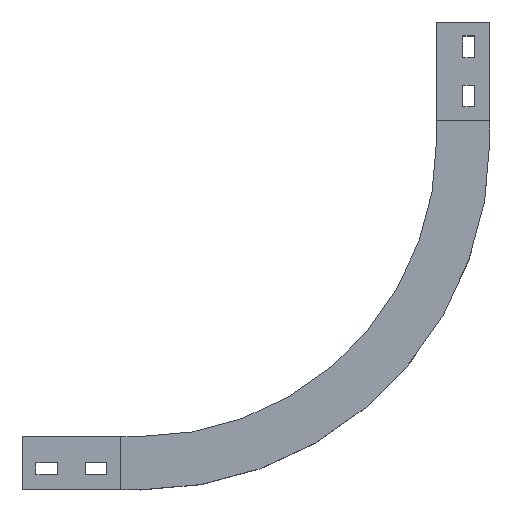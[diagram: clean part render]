
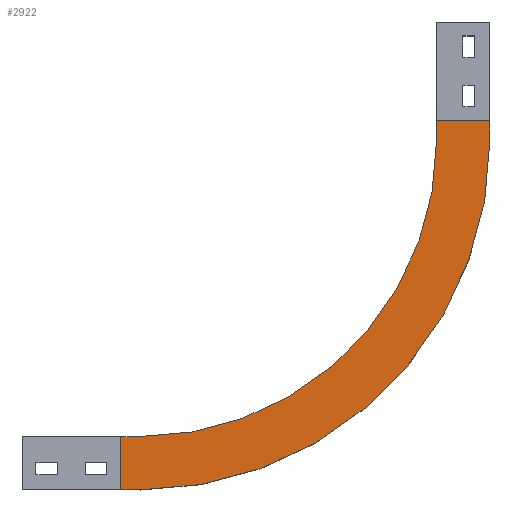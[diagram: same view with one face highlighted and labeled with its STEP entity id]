
A CAD part, top view. The second image highlights one B-rep face of the part: STEP entity #2922.
In plain terms, the highlighted planar face has unit normal (0, 0, 1).
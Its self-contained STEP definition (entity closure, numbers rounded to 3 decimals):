
#179=CIRCLE('',#3135,354.);
#180=CIRCLE('',#3136,300.);
#362=FACE_OUTER_BOUND('',#544,.T.);
#544=EDGE_LOOP('',(#2599,#2600,#2601,#2602,#2603,#2604,#2605,#2606));
#839=LINE('',#5588,#1155);
#843=LINE('',#5596,#1159);
#844=LINE('',#5600,#1160);
#845=LINE('',#5602,#1161);
#846=LINE('',#5604,#1162);
#847=LINE('',#5607,#1163);
#1155=VECTOR('',#3817,304.8);
#1159=VECTOR('',#3823,304.8);
#1160=VECTOR('',#3826,304.8);
#1161=VECTOR('',#3827,304.8);
#1162=VECTOR('',#3828,304.8);
#1163=VECTOR('',#3831,304.8);
#1435=VERTEX_POINT('',#5586);
#1436=VERTEX_POINT('',#5587);
#1439=VERTEX_POINT('',#5595);
#1440=VERTEX_POINT('',#5597);
#1441=VERTEX_POINT('',#5599);
#1442=VERTEX_POINT('',#5601);
#1443=VERTEX_POINT('',#5603);
#1444=VERTEX_POINT('',#5605);
#1827=EDGE_CURVE('',#1435,#1436,#839,.T.);
#1831=EDGE_CURVE('',#1435,#1439,#843,.T.);
#1832=EDGE_CURVE('',#1439,#1440,#179,.T.);
#1833=EDGE_CURVE('',#1440,#1441,#844,.T.);
#1834=EDGE_CURVE('',#1441,#1442,#845,.T.);
#1835=EDGE_CURVE('',#1442,#1443,#846,.T.);
#1836=EDGE_CURVE('',#1443,#1444,#180,.T.);
#1837=EDGE_CURVE('',#1444,#1436,#847,.T.);
#2599=ORIENTED_EDGE('',*,*,#1827,.F.);
#2600=ORIENTED_EDGE('',*,*,#1831,.T.);
#2601=ORIENTED_EDGE('',*,*,#1832,.T.);
#2602=ORIENTED_EDGE('',*,*,#1833,.T.);
#2603=ORIENTED_EDGE('',*,*,#1834,.T.);
#2604=ORIENTED_EDGE('',*,*,#1835,.T.);
#2605=ORIENTED_EDGE('',*,*,#1836,.T.);
#2606=ORIENTED_EDGE('',*,*,#1837,.T.);
#2778=PLANE('',#3134);
#2922=ADVANCED_FACE('',(#362),#2778,.T.);
#3134=AXIS2_PLACEMENT_3D('',#5594,#3821,#3822);
#3135=AXIS2_PLACEMENT_3D('',#5598,#3824,#3825);
#3136=AXIS2_PLACEMENT_3D('',#5606,#3829,#3830);
#3817=DIRECTION('',(0.,1.,0.));
#3821=DIRECTION('center_axis',(0.,0.,1.));
#3822=DIRECTION('ref_axis',(1.,0.,0.));
#3823=DIRECTION('',(1.,0.,0.));
#3824=DIRECTION('center_axis',(0.,0.,1.));
#3825=DIRECTION('ref_axis',(0.,-1.,0.));
#3826=DIRECTION('',(0.,1.,0.));
#3827=DIRECTION('',(-1.,0.,0.));
#3828=DIRECTION('',(0.,-1.,0.));
#3829=DIRECTION('center_axis',(0.,0.,-1.));
#3830=DIRECTION('ref_axis',(0.,-1.,0.));
#3831=DIRECTION('',(-1.,0.,0.));
#5586=CARTESIAN_POINT('',(-347.,-27.,55.5));
#5587=CARTESIAN_POINT('',(-347.,27.,55.5));
#5588=CARTESIAN_POINT('',(-347.,-27.,55.5));
#5594=CARTESIAN_POINT('Origin',(-347.,-27.,55.5));
#5595=CARTESIAN_POINT('',(-327.,-27.,55.5));
#5596=CARTESIAN_POINT('',(-347.,-27.,55.5));
#5597=CARTESIAN_POINT('',(27.,327.,55.5));
#5598=CARTESIAN_POINT('Origin',(-327.,327.,55.5));
#5599=CARTESIAN_POINT('',(27.,347.,55.5));
#5600=CARTESIAN_POINT('',(27.,327.,55.5));
#5601=CARTESIAN_POINT('',(-27.,347.,55.5));
#5602=CARTESIAN_POINT('',(-27.,347.,55.5));
#5603=CARTESIAN_POINT('',(-27.,327.,55.5));
#5604=CARTESIAN_POINT('',(-27.,327.,55.5));
#5605=CARTESIAN_POINT('',(-327.,27.,55.5));
#5606=CARTESIAN_POINT('Origin',(-327.,327.,55.5));
#5607=CARTESIAN_POINT('',(-347.,27.,55.5));
